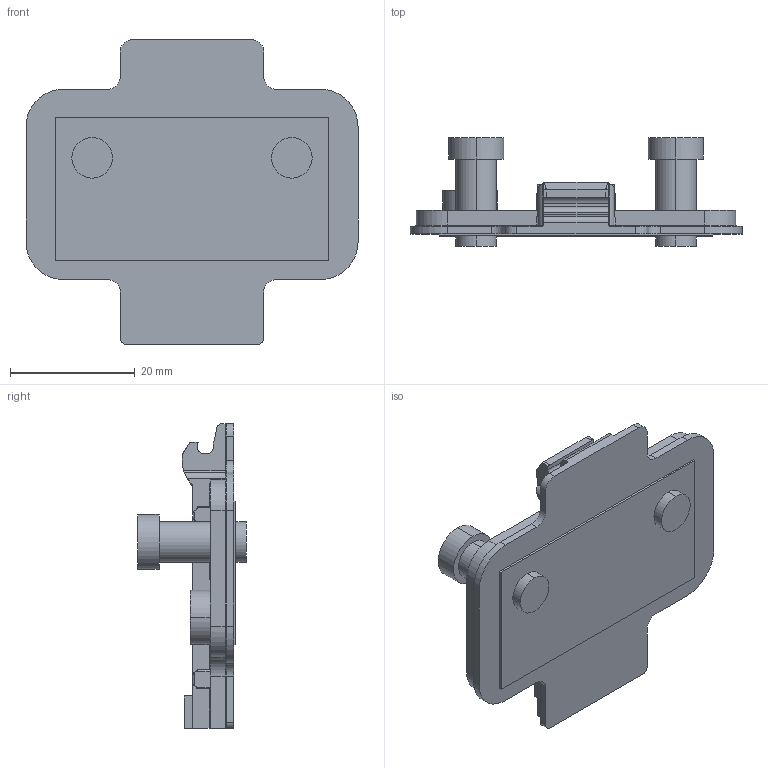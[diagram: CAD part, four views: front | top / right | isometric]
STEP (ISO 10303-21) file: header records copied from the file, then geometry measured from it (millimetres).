
FILE_DESCRIPTION (( 'STEP AP203' ), '1' );
FILE_NAME ('81T02TQA.STEP', '2024-07-27T02:51:06', ( '微软用户' ), ( '微软中国' ), 'SwSTEP 2.0', 'SolidWorks 2021', '' );
FILE_SCHEMA (( 'CONFIG_CONTROL_DESIGN' ));
Length unit declared in the file: millimetre
Products named in the file (1): 81T02TQA
Bounding box: 53.2 x 17.45 x 48.85 mm (x, y, z)
Volume: 10007.8 mm3; surface area: 6278.9 mm2
Topology: 1 solids, 1 shells, 272 faces, 722 edges, 460 vertices
Faces by surface type: cylinder 119, plane 106, torus 39, bspline 4, sphere 4
Entity records: 9015 total; most frequent: CARTESIAN_POINT 2130, DIRECTION 1457, ORIENTED_EDGE 1432, EDGE_CURVE 716, AXIS2_PLACEMENT_3D 536, VERTEX_POINT 460, LINE 385, VECTOR 385
